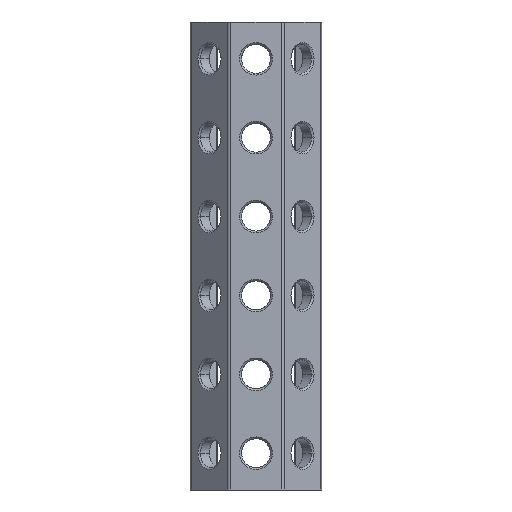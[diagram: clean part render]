
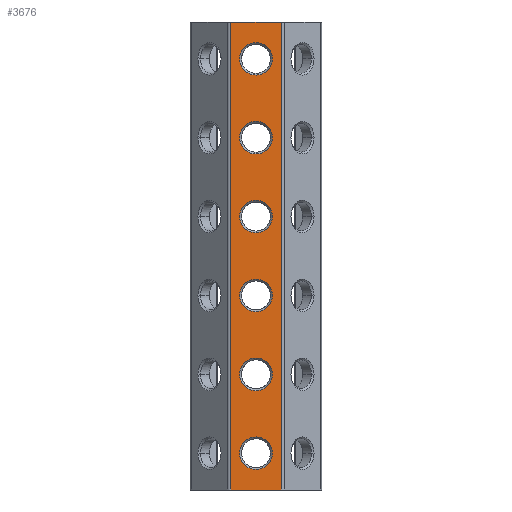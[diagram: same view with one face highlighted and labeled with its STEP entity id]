
A CAD part, left-side view. The second image highlights one B-rep face of the part: STEP entity #3676.
In plain terms, the highlighted planar face has unit normal (-1, 0, 0).
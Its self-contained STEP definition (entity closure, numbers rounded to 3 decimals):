
#761=CARTESIAN_POINT('Vertex',(-25.,9.527,0.)) ;
#764=CARTESIAN_POINT('Line Origine',(-25.,0.,0.)) ;
#768=CARTESIAN_POINT('Vertex',(-25.,-9.527,0.)) ;
#1421=CARTESIAN_POINT('Vertex',(-25.,-9.527,-178.)) ;
#1424=CARTESIAN_POINT('Line Origine',(-25.,0.,-178.)) ;
#1428=CARTESIAN_POINT('Vertex',(-25.,9.527,-178.)) ;
#3492=CARTESIAN_POINT('Line Origine',(-25.,9.527,-4078.)) ;
#3504=CARTESIAN_POINT('Axis2P3D Location',(-25.,0.,-4078.)) ;
#3509=CARTESIAN_POINT('Line Origine',(-25.,-9.527,-89.)) ;
#3520=CARTESIAN_POINT('Axis2P3D Location',(-25.,0.,-14.)) ;
#3524=CARTESIAN_POINT('Vertex',(-25.,-3.1,-19.369)) ;
#3526=CARTESIAN_POINT('Vertex',(-25.,-6.2,-14.)) ;
#3529=CARTESIAN_POINT('Axis2P3D Location',(-25.,0.,-14.)) ;
#3533=CARTESIAN_POINT('Vertex',(-25.,6.2,-14.)) ;
#3536=CARTESIAN_POINT('Axis2P3D Location',(-25.,0.,-14.)) ;
#3546=CARTESIAN_POINT('Axis2P3D Location',(-25.,0.,-44.)) ;
#3550=CARTESIAN_POINT('Vertex',(-25.,-3.1,-49.369)) ;
#3552=CARTESIAN_POINT('Vertex',(-25.,-6.2,-44.)) ;
#3555=CARTESIAN_POINT('Axis2P3D Location',(-25.,0.,-44.)) ;
#3559=CARTESIAN_POINT('Vertex',(-25.,6.2,-44.)) ;
#3562=CARTESIAN_POINT('Axis2P3D Location',(-25.,0.,-44.)) ;
#3572=CARTESIAN_POINT('Axis2P3D Location',(-25.,0.,-74.)) ;
#3576=CARTESIAN_POINT('Vertex',(-25.,-3.1,-79.369)) ;
#3578=CARTESIAN_POINT('Vertex',(-25.,-6.2,-74.)) ;
#3581=CARTESIAN_POINT('Axis2P3D Location',(-25.,0.,-74.)) ;
#3585=CARTESIAN_POINT('Vertex',(-25.,6.2,-74.)) ;
#3588=CARTESIAN_POINT('Axis2P3D Location',(-25.,0.,-74.)) ;
#3598=CARTESIAN_POINT('Axis2P3D Location',(-25.,0.,-104.)) ;
#3602=CARTESIAN_POINT('Vertex',(-25.,-3.1,-109.369)) ;
#3604=CARTESIAN_POINT('Vertex',(-25.,-6.2,-104.)) ;
#3607=CARTESIAN_POINT('Axis2P3D Location',(-25.,0.,-104.)) ;
#3611=CARTESIAN_POINT('Vertex',(-25.,6.2,-104.)) ;
#3614=CARTESIAN_POINT('Axis2P3D Location',(-25.,0.,-104.)) ;
#3624=CARTESIAN_POINT('Axis2P3D Location',(-25.,0.,-134.)) ;
#3628=CARTESIAN_POINT('Vertex',(-25.,-3.1,-139.369)) ;
#3630=CARTESIAN_POINT('Vertex',(-25.,-6.2,-134.)) ;
#3633=CARTESIAN_POINT('Axis2P3D Location',(-25.,0.,-134.)) ;
#3637=CARTESIAN_POINT('Vertex',(-25.,6.2,-134.)) ;
#3640=CARTESIAN_POINT('Axis2P3D Location',(-25.,0.,-134.)) ;
#3650=CARTESIAN_POINT('Axis2P3D Location',(-25.,0.,-164.)) ;
#3654=CARTESIAN_POINT('Vertex',(-25.,-3.1,-169.369)) ;
#3656=CARTESIAN_POINT('Vertex',(-25.,-6.2,-164.)) ;
#3659=CARTESIAN_POINT('Axis2P3D Location',(-25.,0.,-164.)) ;
#3663=CARTESIAN_POINT('Vertex',(-25.,6.2,-164.)) ;
#3666=CARTESIAN_POINT('Axis2P3D Location',(-25.,0.,-164.)) ;
#765=DIRECTION('Vector Direction',(0.,-1.,0.)) ;
#1425=DIRECTION('Vector Direction',(0.,-1.,0.)) ;
#3493=DIRECTION('Vector Direction',(0.,0.,1.)) ;
#3505=DIRECTION('Axis2P3D Direction',(-1.,0.,0.)) ;
#3506=DIRECTION('Axis2P3D XDirection',(0.,-1.,0.)) ;
#3510=DIRECTION('Vector Direction',(0.,0.,1.)) ;
#3521=DIRECTION('Axis2P3D Direction',(-1.,0.,0.)) ;
#3530=DIRECTION('Axis2P3D Direction',(-1.,0.,0.)) ;
#3537=DIRECTION('Axis2P3D Direction',(-1.,0.,0.)) ;
#3547=DIRECTION('Axis2P3D Direction',(-1.,0.,0.)) ;
#3556=DIRECTION('Axis2P3D Direction',(-1.,0.,0.)) ;
#3563=DIRECTION('Axis2P3D Direction',(-1.,0.,0.)) ;
#3573=DIRECTION('Axis2P3D Direction',(-1.,0.,0.)) ;
#3582=DIRECTION('Axis2P3D Direction',(-1.,0.,0.)) ;
#3589=DIRECTION('Axis2P3D Direction',(-1.,0.,0.)) ;
#3599=DIRECTION('Axis2P3D Direction',(-1.,0.,0.)) ;
#3608=DIRECTION('Axis2P3D Direction',(-1.,0.,0.)) ;
#3615=DIRECTION('Axis2P3D Direction',(-1.,0.,0.)) ;
#3625=DIRECTION('Axis2P3D Direction',(-1.,0.,0.)) ;
#3634=DIRECTION('Axis2P3D Direction',(-1.,0.,0.)) ;
#3641=DIRECTION('Axis2P3D Direction',(-1.,0.,0.)) ;
#3651=DIRECTION('Axis2P3D Direction',(-1.,0.,0.)) ;
#3660=DIRECTION('Axis2P3D Direction',(-1.,0.,0.)) ;
#3667=DIRECTION('Axis2P3D Direction',(-1.,0.,0.)) ;
#3507=AXIS2_PLACEMENT_3D('Plane Axis2P3D',#3504,#3505,#3506) ;
#3522=AXIS2_PLACEMENT_3D('Circle Axis2P3D',#3520,#3521,$) ;
#3531=AXIS2_PLACEMENT_3D('Circle Axis2P3D',#3529,#3530,$) ;
#3538=AXIS2_PLACEMENT_3D('Circle Axis2P3D',#3536,#3537,$) ;
#3548=AXIS2_PLACEMENT_3D('Circle Axis2P3D',#3546,#3547,$) ;
#3557=AXIS2_PLACEMENT_3D('Circle Axis2P3D',#3555,#3556,$) ;
#3564=AXIS2_PLACEMENT_3D('Circle Axis2P3D',#3562,#3563,$) ;
#3574=AXIS2_PLACEMENT_3D('Circle Axis2P3D',#3572,#3573,$) ;
#3583=AXIS2_PLACEMENT_3D('Circle Axis2P3D',#3581,#3582,$) ;
#3590=AXIS2_PLACEMENT_3D('Circle Axis2P3D',#3588,#3589,$) ;
#3600=AXIS2_PLACEMENT_3D('Circle Axis2P3D',#3598,#3599,$) ;
#3609=AXIS2_PLACEMENT_3D('Circle Axis2P3D',#3607,#3608,$) ;
#3616=AXIS2_PLACEMENT_3D('Circle Axis2P3D',#3614,#3615,$) ;
#3626=AXIS2_PLACEMENT_3D('Circle Axis2P3D',#3624,#3625,$) ;
#3635=AXIS2_PLACEMENT_3D('Circle Axis2P3D',#3633,#3634,$) ;
#3642=AXIS2_PLACEMENT_3D('Circle Axis2P3D',#3640,#3641,$) ;
#3652=AXIS2_PLACEMENT_3D('Circle Axis2P3D',#3650,#3651,$) ;
#3661=AXIS2_PLACEMENT_3D('Circle Axis2P3D',#3659,#3660,$) ;
#3668=AXIS2_PLACEMENT_3D('Circle Axis2P3D',#3666,#3667,$) ;
#3515=ORIENTED_EDGE('',*,*,#3496,.F.) ;
#3516=ORIENTED_EDGE('',*,*,#1430,.T.) ;
#3517=ORIENTED_EDGE('',*,*,#3513,.T.) ;
#3518=ORIENTED_EDGE('',*,*,#770,.F.) ;
#3542=ORIENTED_EDGE('',*,*,#3528,.F.) ;
#3543=ORIENTED_EDGE('',*,*,#3535,.F.) ;
#3544=ORIENTED_EDGE('',*,*,#3540,.F.) ;
#3568=ORIENTED_EDGE('',*,*,#3554,.F.) ;
#3569=ORIENTED_EDGE('',*,*,#3561,.F.) ;
#3570=ORIENTED_EDGE('',*,*,#3566,.F.) ;
#3594=ORIENTED_EDGE('',*,*,#3580,.F.) ;
#3595=ORIENTED_EDGE('',*,*,#3587,.F.) ;
#3596=ORIENTED_EDGE('',*,*,#3592,.F.) ;
#3620=ORIENTED_EDGE('',*,*,#3606,.F.) ;
#3621=ORIENTED_EDGE('',*,*,#3613,.F.) ;
#3622=ORIENTED_EDGE('',*,*,#3618,.F.) ;
#3646=ORIENTED_EDGE('',*,*,#3632,.F.) ;
#3647=ORIENTED_EDGE('',*,*,#3639,.F.) ;
#3648=ORIENTED_EDGE('',*,*,#3644,.F.) ;
#3672=ORIENTED_EDGE('',*,*,#3658,.F.) ;
#3673=ORIENTED_EDGE('',*,*,#3665,.F.) ;
#3674=ORIENTED_EDGE('',*,*,#3670,.F.) ;
#3545=FACE_BOUND('',#3541,.T.) ;
#3571=FACE_BOUND('',#3567,.T.) ;
#3597=FACE_BOUND('',#3593,.T.) ;
#3623=FACE_BOUND('',#3619,.T.) ;
#3649=FACE_BOUND('',#3645,.T.) ;
#3675=FACE_BOUND('',#3671,.T.) ;
#766=VECTOR('Line Direction',#765,1.) ;
#1426=VECTOR('Line Direction',#1425,1.) ;
#3494=VECTOR('Line Direction',#3493,1.) ;
#3511=VECTOR('Line Direction',#3510,1.) ;
#3676=ADVANCED_FACE('\X2\51F853F0\X0\-\X2\62C94F38\X0\1',(#3519,#3545,#3571,#3597,#3623,#3649,#3675),#3508,.T.) ;
#3523=CIRCLE('generated circle',#3522,6.2) ;
#3532=CIRCLE('generated circle',#3531,6.2) ;
#3539=CIRCLE('generated circle',#3538,6.2) ;
#3549=CIRCLE('generated circle',#3548,6.2) ;
#3558=CIRCLE('generated circle',#3557,6.2) ;
#3565=CIRCLE('generated circle',#3564,6.2) ;
#3575=CIRCLE('generated circle',#3574,6.2) ;
#3584=CIRCLE('generated circle',#3583,6.2) ;
#3591=CIRCLE('generated circle',#3590,6.2) ;
#3601=CIRCLE('generated circle',#3600,6.2) ;
#3610=CIRCLE('generated circle',#3609,6.2) ;
#3617=CIRCLE('generated circle',#3616,6.2) ;
#3627=CIRCLE('generated circle',#3626,6.2) ;
#3636=CIRCLE('generated circle',#3635,6.2) ;
#3643=CIRCLE('generated circle',#3642,6.2) ;
#3653=CIRCLE('generated circle',#3652,6.2) ;
#3662=CIRCLE('generated circle',#3661,6.2) ;
#3669=CIRCLE('generated circle',#3668,6.2) ;
#770=EDGE_CURVE('',#762,#769,#767,.T.) ;
#1430=EDGE_CURVE('',#1429,#1422,#1427,.T.) ;
#3496=EDGE_CURVE('',#1429,#762,#3495,.T.) ;
#3513=EDGE_CURVE('',#1422,#769,#3512,.T.) ;
#3528=EDGE_CURVE('',#3525,#3527,#3523,.T.) ;
#3535=EDGE_CURVE('',#3534,#3525,#3532,.T.) ;
#3540=EDGE_CURVE('',#3527,#3534,#3539,.T.) ;
#3554=EDGE_CURVE('',#3551,#3553,#3549,.T.) ;
#3561=EDGE_CURVE('',#3560,#3551,#3558,.T.) ;
#3566=EDGE_CURVE('',#3553,#3560,#3565,.T.) ;
#3580=EDGE_CURVE('',#3577,#3579,#3575,.T.) ;
#3587=EDGE_CURVE('',#3586,#3577,#3584,.T.) ;
#3592=EDGE_CURVE('',#3579,#3586,#3591,.T.) ;
#3606=EDGE_CURVE('',#3603,#3605,#3601,.T.) ;
#3613=EDGE_CURVE('',#3612,#3603,#3610,.T.) ;
#3618=EDGE_CURVE('',#3605,#3612,#3617,.T.) ;
#3632=EDGE_CURVE('',#3629,#3631,#3627,.T.) ;
#3639=EDGE_CURVE('',#3638,#3629,#3636,.T.) ;
#3644=EDGE_CURVE('',#3631,#3638,#3643,.T.) ;
#3658=EDGE_CURVE('',#3655,#3657,#3653,.T.) ;
#3665=EDGE_CURVE('',#3664,#3655,#3662,.T.) ;
#3670=EDGE_CURVE('',#3657,#3664,#3669,.T.) ;
#3514=EDGE_LOOP('',(#3515,#3516,#3517,#3518)) ;
#3541=EDGE_LOOP('',(#3542,#3543,#3544)) ;
#3567=EDGE_LOOP('',(#3568,#3569,#3570)) ;
#3593=EDGE_LOOP('',(#3594,#3595,#3596)) ;
#3619=EDGE_LOOP('',(#3620,#3621,#3622)) ;
#3645=EDGE_LOOP('',(#3646,#3647,#3648)) ;
#3671=EDGE_LOOP('',(#3672,#3673,#3674)) ;
#3519=FACE_OUTER_BOUND('',#3514,.T.) ;
#767=LINE('Line',#764,#766) ;
#1427=LINE('Line',#1424,#1426) ;
#3495=LINE('Line',#3492,#3494) ;
#3512=LINE('Line',#3509,#3511) ;
#3508=PLANE('',#3507) ;
#762=VERTEX_POINT('',#761) ;
#769=VERTEX_POINT('',#768) ;
#1422=VERTEX_POINT('',#1421) ;
#1429=VERTEX_POINT('',#1428) ;
#3525=VERTEX_POINT('',#3524) ;
#3527=VERTEX_POINT('',#3526) ;
#3534=VERTEX_POINT('',#3533) ;
#3551=VERTEX_POINT('',#3550) ;
#3553=VERTEX_POINT('',#3552) ;
#3560=VERTEX_POINT('',#3559) ;
#3577=VERTEX_POINT('',#3576) ;
#3579=VERTEX_POINT('',#3578) ;
#3586=VERTEX_POINT('',#3585) ;
#3603=VERTEX_POINT('',#3602) ;
#3605=VERTEX_POINT('',#3604) ;
#3612=VERTEX_POINT('',#3611) ;
#3629=VERTEX_POINT('',#3628) ;
#3631=VERTEX_POINT('',#3630) ;
#3638=VERTEX_POINT('',#3637) ;
#3655=VERTEX_POINT('',#3654) ;
#3657=VERTEX_POINT('',#3656) ;
#3664=VERTEX_POINT('',#3663) ;
